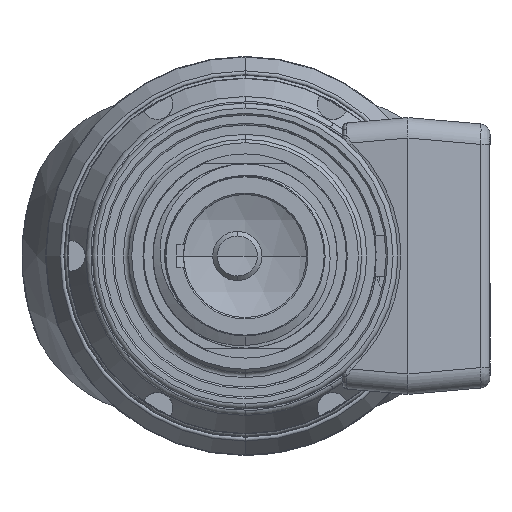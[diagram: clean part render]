
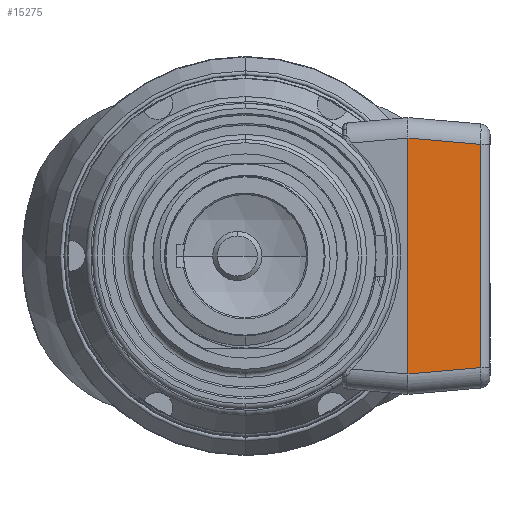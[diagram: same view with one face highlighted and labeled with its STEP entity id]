
A CAD part, left-side view. The second image highlights one B-rep face of the part: STEP entity #15275.
In plain terms, the highlighted planar face has unit normal (-0.996, -0.087, 0).
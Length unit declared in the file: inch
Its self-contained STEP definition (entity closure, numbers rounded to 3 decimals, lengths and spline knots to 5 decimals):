
#105 = DIRECTION ( 'NONE',  ( 0., 0., 1. ) ) ;
#356 = LINE ( 'NONE', #43427, #27742 ) ;
#358 = DIRECTION ( 'NONE',  ( -0.996, -0.087, 0. ) ) ;
#537 = VERTEX_POINT ( 'NONE', #41959 ) ;
#967 = ORIENTED_EDGE ( 'NONE', *, *, #25446, .T. ) ;
#2648 = EDGE_CURVE ( 'NONE', #12420, #8441, #6385, .T. ) ;
#3034 = CARTESIAN_POINT ( 'NONE',  ( 0.28876, -0.99353, -0.71922 ) ) ;
#3140 = DIRECTION ( 'NONE',  ( 0.087, -0.992, 0.087 ) ) ;
#3344 = CARTESIAN_POINT ( 'NONE',  ( 0.33156, -1.4828, -0.67641 ) ) ;
#6385 = LINE ( 'NONE', #3344, #43703 ) ;
#8441 = VERTEX_POINT ( 'NONE', #11021 ) ;
#11021 = CARTESIAN_POINT ( 'NONE',  ( 0.32751, -1.43648, -0.68047 ) ) ;
#11319 = VECTOR ( 'NONE', #46820, 39.37008 ) ;
#12338 = CARTESIAN_POINT ( 'NONE',  ( 0.32751, -1.43648, -0.8 ) ) ;
#12420 = VERTEX_POINT ( 'NONE', #3034 ) ;
#12628 = AXIS2_PLACEMENT_3D ( 'NONE', #29410, #358, #29402 ) ;
#15275 = ADVANCED_FACE ( 'NONE', ( #29417 ), #35718, .T. ) ;
#16103 = CARTESIAN_POINT ( 'NONE',  ( 0.32751, -1.43648, 0.68047 ) ) ;
#17022 = DIRECTION ( 'NONE',  ( 0., 0., 1. ) ) ;
#21169 = ORIENTED_EDGE ( 'NONE', *, *, #45258, .T. ) ;
#25067 = VERTEX_POINT ( 'NONE', #16103 ) ;
#25446 = EDGE_CURVE ( 'NONE', #8441, #25067, #26626, .T. ) ;
#26626 = LINE ( 'NONE', #12338, #46268 ) ;
#27742 = VECTOR ( 'NONE', #105, 39.37008 ) ;
#28340 = ORIENTED_EDGE ( 'NONE', *, *, #2648, .T. ) ;
#28347 = CARTESIAN_POINT ( 'NONE',  ( 0.34362, -1.62067, 0.66435 ) ) ;
#29402 = DIRECTION ( 'NONE',  ( -0.087, 0.996, 0. ) ) ;
#29410 = CARTESIAN_POINT ( 'NONE',  ( 0.3325, -1.49353, -0.8 ) ) ;
#29417 = FACE_OUTER_BOUND ( 'NONE', #40059, .T. ) ;
#31688 = ORIENTED_EDGE ( 'NONE', *, *, #43621, .F. ) ;
#35718 = PLANE ( 'NONE',  #12628 ) ;
#40059 = EDGE_LOOP ( 'NONE', ( #28340, #967, #21169, #31688 ) ) ;
#40075 = LINE ( 'NONE', #28347, #11319 ) ;
#41959 = CARTESIAN_POINT ( 'NONE',  ( 0.28876, -0.99353, 0.71922 ) ) ;
#43427 = CARTESIAN_POINT ( 'NONE',  ( 0.28876, -0.99353, -0.8 ) ) ;
#43621 = EDGE_CURVE ( 'NONE', #12420, #537, #356, .T. ) ;
#43703 = VECTOR ( 'NONE', #3140, 39.37008 ) ;
#45258 = EDGE_CURVE ( 'NONE', #25067, #537, #40075, .T. ) ;
#46268 = VECTOR ( 'NONE', #17022, 39.37008 ) ;
#46820 = DIRECTION ( 'NONE',  ( -0.087, 0.992, 0.087 ) ) ;
